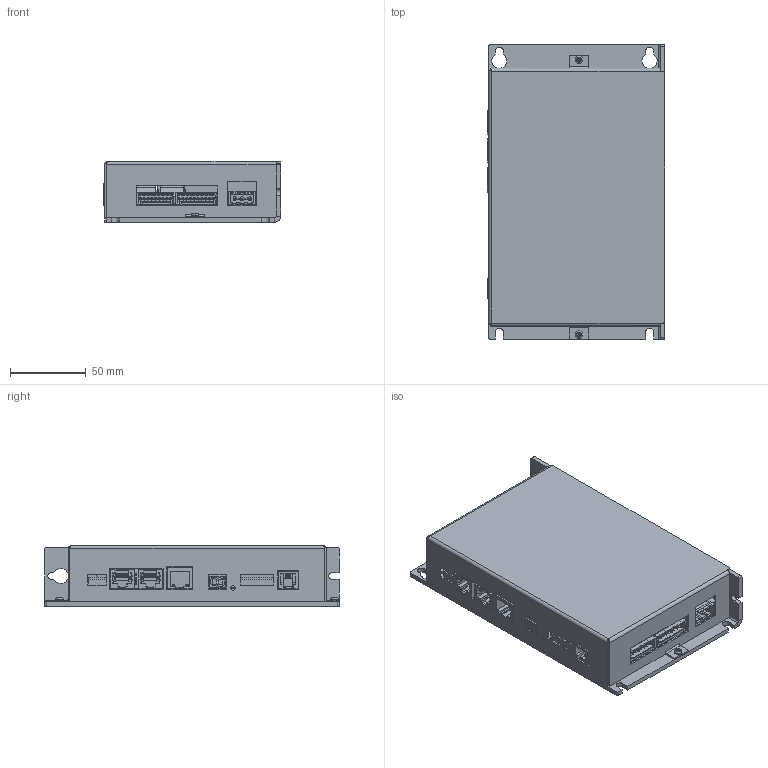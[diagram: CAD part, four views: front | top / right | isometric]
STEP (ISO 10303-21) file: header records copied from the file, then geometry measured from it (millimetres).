
FILE_DESCRIPTION((''),'2;1');
FILE_NAME('ASSIEME_GWC02_ASM','2020-12-09T09:32:59',('Matteo Maccalli'),(''),'CREO PARAMETRIC BY PTC INC, 2019344','CREO PARAMETRIC BY PTC INC, 2019344','');
FILE_SCHEMA(('AUTOMOTIVE_DESIGN { 1 0 10303 214 1 1 1 1 }'));
Products named in the file (53): RA_GWC02_NO_INSERTI_AF1; DISTANZIALE_CIECO_M3X10; RA_GWC02_ASM; OPEN_CASCADE_STEP_TRANSLATO-110; BOARD-100_ASM; LED_HSMX-C680_1_2_3_4_1; LED_HSMX-C680_1_2_3_4_2; LED_HSMX-C680_1_2_3_4_3; LED_HSMX-C680_1_2_3_4_4; LED_HSMX-C680_1_2_3_4_ASM; LED901_ASM; LED_HSMX-C680_1; LED_HSMX-C680_2; LED_HSMX-C680_3; LED_HSMX-C680_4; LED_HSMX-C680_ASM; LED900_ASM; C-5555153-1-C-3D_1_2; CN4_ASM; 19613; DIP600_ASM; BOARD-28015; TDS; DISPLAY_ASM; WPW05VIS-01_ASM; VIS300_ASM; LED300_ASM; SW_DIP8_90_THD; DIP300_ASM; MC_0_5-10-G-2_5_THT; 1963502_00_ASM; CN8_ASM; MC_0_5-9-G-2_5_THT; 1963492_ASM; CN7_ASM; OPEN_CASCADE_STEP_TRANSLA-65595; OPEN_CASCADE_STEP_TRANSLA-74208; 955012641_ASM; CN6_ASM; J0011D01BNL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
Assembly tree (60 placements, depth 7):
  ASSIEME_GWC02_ASM
    RA_GWC02_ASM
      RA_GWC02_NO_INSERTI_AF1
      DISTANZIALE_CIECO_M3X10  x6
    GWC02-00_CONNETTORI_ASM
      PCB_1_ASM
        BOARD-100_ASM
          OPEN_CASCADE_STEP_TRANSLATO-110
        LED901_ASM
          LED_HSMX-C680_1_2_3_4_ASM
            LED_HSMX-C680_1_2_3_4_1
            LED_HSMX-C680_1_2_3_4_2
            LED_HSMX-C680_1_2_3_4_3
            LED_HSMX-C680_1_2_3_4_4
        LED900_ASM
          LED_HSMX-C680_ASM
            LED_HSMX-C680_1
            LED_HSMX-C680_2
            LED_HSMX-C680_3
            LED_HSMX-C680_4
        CN4_ASM
          C-5555153-1-C-3D_1_2
        DIP600_ASM
          19613
        VIS300_ASM
          WPW05VIS-01_ASM
            BOARD-28015
            DISPLAY_ASM
              TDS
        LED300_ASM
          LED_HSMX-C680_ASM
            LED_HSMX-C680_1
            LED_HSMX-C680_2
            LED_HSMX-C680_3
            LED_HSMX-C680_4
        DIP300_ASM
          SW_DIP8_90_THD
        CN8_ASM
          1963502_00_ASM
            MC_0_5-10-G-2_5_THT
        CN7_ASM
          1963492_ASM
            MC_0_5-9-G-2_5_THT
        CN6_ASM
          955012641_ASM
            OPEN_CASCADE_STEP_TRANSLA-65595
            OPEN_CASCADE_STEP_TRANSLA-74208
        CN5_ASM
          J0011D01BNL
        CN3_ASM
          C-5555153-1-C-3D
        CN2B_ASM
          C-5555153-1-C-3D
        CN2A_ASM
          C-5555153-1-C-3D
        CN1_ASM
          1757255_BLACK
    TCC_M2E5X04_AF1
    TCC_M2E5X04_AF2
    MC_GWC02
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Bounding box: 116.92 x 194 x 40 mm (x, y, z)
Volume: 165584.1 mm3; surface area: 184856.3 mm2
Topology: 36 solids, 36 shells, 4184 faces, 11127 edges, 7269 vertices
Faces by surface type: plane 3134, cylinder 938, cone 72, sphere 28, torus 8, bspline 4
Entity records: 138842 total; most frequent: CARTESIAN_POINT 20441, ORIENTED_EDGE 18384, DIRECTION 18093, EDGE_CURVE 9192, VECTOR 7121, LINE 7121, PRESENTATION_STYLE_ASSIGNMENT 6909, VERTEX_POINT 6011
